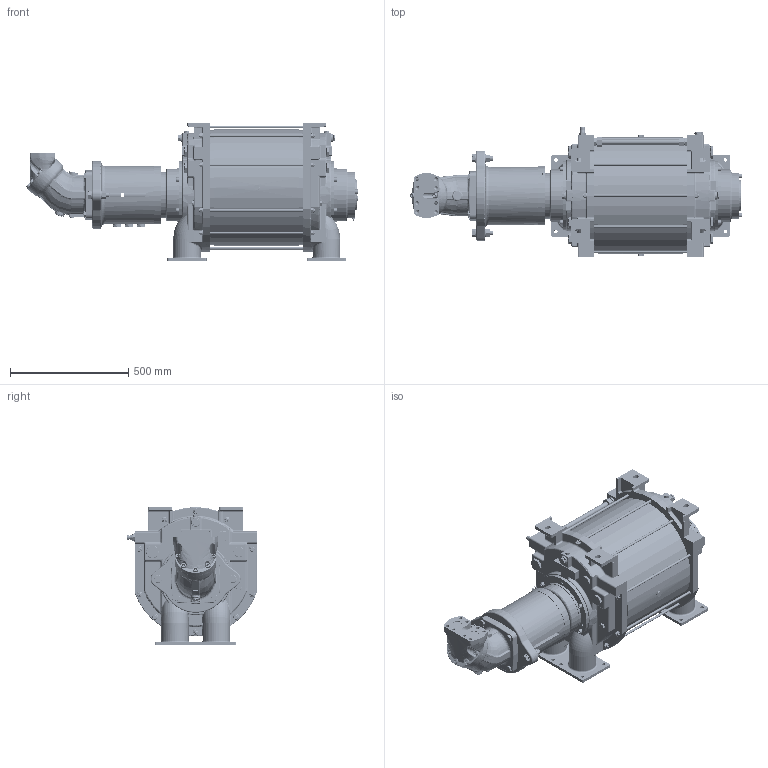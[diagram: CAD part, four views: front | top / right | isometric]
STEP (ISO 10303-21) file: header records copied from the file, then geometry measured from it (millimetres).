
FILE_DESCRIPTION(/* description */ (''),/* implementation_level */ '2;1');
FILE_NAME(/* name */ '1700047A.stp',/* time_stamp */ '2025-04-24T10:59:09+02:00',/* author */ ('JJ'),/* organization */ (''),/* preprocessor_version */ 'ST-DEVELOPER v20',/* originating_system */ 'Autodesk Inventor 2025',/* authorisation */ '');
FILE_SCHEMA (('AUTOMOTIVE_DESIGN { 1 0 10303 214 3 1 1 }'));
Products named in the file (5): 1700047; 1700046 Ready for adaptor; 910000407; 1634769_Simplify_1; 944000089
Assembly tree (7 placements, depth 2):
  1700047
    1700046 Ready for adaptor
    910000407  x4
    1634769_Simplify_1
    944000089
Bounding box: 1401.27 x 545.5 x 585 mm (x, y, z)
Volume: 139128657.5 mm3; surface area: 3637695.7 mm2
Topology: 8 solids, 8 shells, 3943 faces, 9679 edges, 6021 vertices
Faces by surface type: plane 1453, cylinder 975, bspline 779, cone 391, torus 265, sphere 80
Full cylindrical faces by diameter (mm): 3 x2, 3.3 x8, 4 x4, 6 x3, 6.5 x1, 6.65 x1, 8 x2, 10 x1, 10.106 x10, 10.75 x10, 11 x1, 12 x47, 13 x26, 13.835 x8, 13.84 x4, 14 x1, 14.224 x1, 14.917 x4, 15 x17, 16 x4, 17 x1, 17.294 x1, 18 x22, 19 x1, 19.847 x1, 19.984 x1, 20 x9, 20.376 x3, 21 x7, 21.8 x6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
Entity records: 256800 total; most frequent: CARTESIAN_POINT 166449, ORIENTED_EDGE 18916, DIRECTION 16565, EDGE_CURVE 9458, AXIS2_PLACEMENT_3D 6426, VERTEX_POINT 5943, EDGE_LOOP 4359, FACE_OUTER_BOUND 3880
